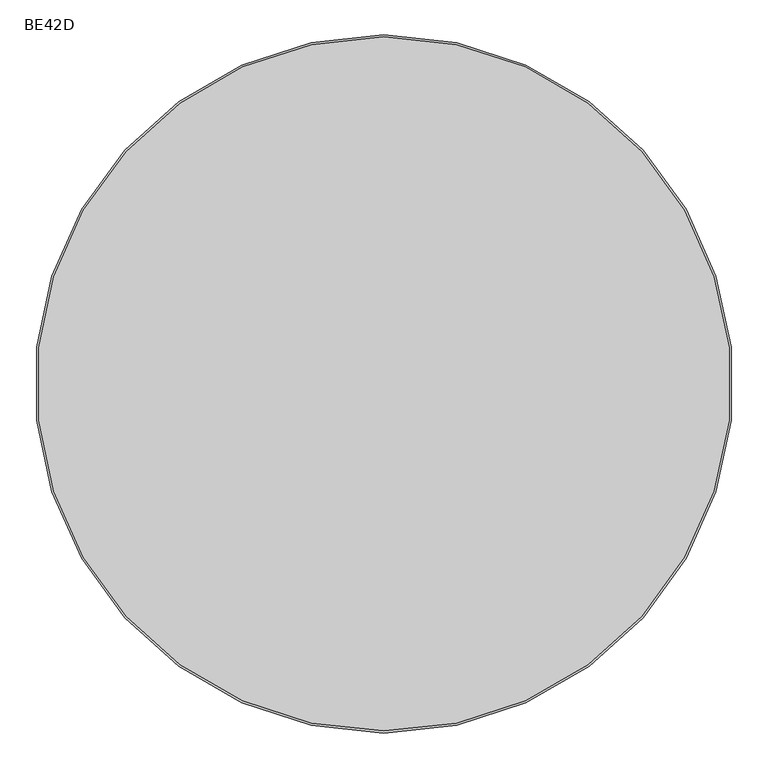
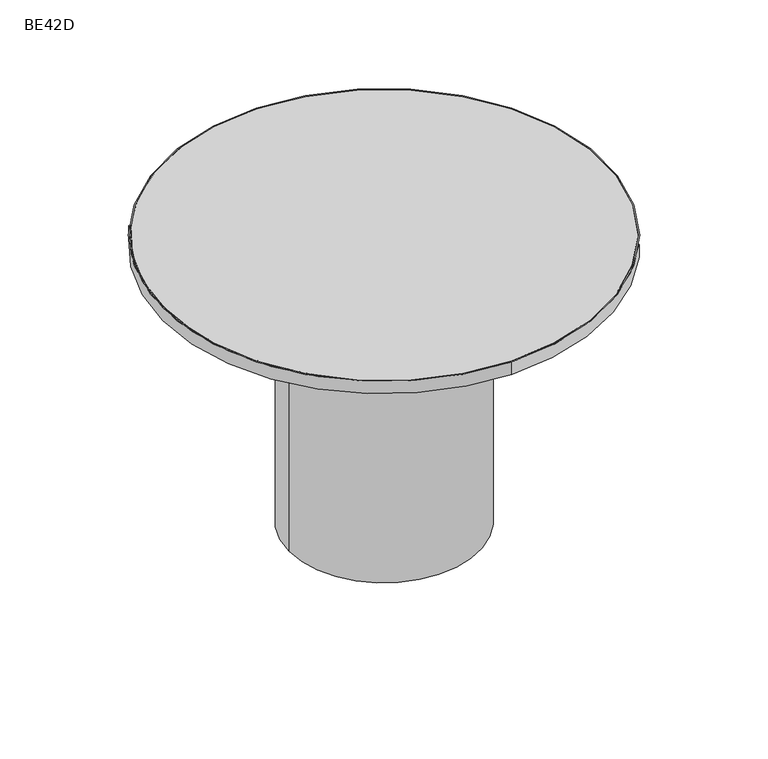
"""IFC4 building model written with IfcOpenShell, lengths in millimetres: furniture geometry, ERG-Beta-Conference_Table-Round : BE42D."""

from ifc_helpers import new_model, si_unit, point, frame, frame_2d, origin, origin_with_axes, place, context, project, spatial, circle_curve, trimmed, segment, composite_curve, outline, extrude, source, transform, mapped, element, save


def be42d_83e980be(model_context):
    return source(origin(), model_context, "Body", "SweptSolid", [
        extrude(outline(composite_curve([segment(trimmed(circle_curve(frame_2d((406.7956425, 189.8558845)), 9.525), [point((397.2706425, 189.8558845))], [point((416.3206425, 189.8558845))], False, "CARTESIAN"), True, "CONTINUOUS"), segment(trimmed(circle_curve(frame_2d((406.7956425, 189.8558845)), 9.525), [point((416.3206425, 189.8558845))], [point((397.2706425, 189.8558845))], False, "CARTESIAN"), True, "CONTINUOUS")], self_intersect=False)), origin_with_axes(), (0.0, 0.0, 1.0), 9.525),
        extrude(outline(composite_curve([segment(trimmed(circle_curve(frame_2d((679.0543575, 189.8558845)), 9.525), [point((669.5293575, 189.8558845))], [point((688.5793575, 189.8558845))], False, "CARTESIAN"), True, "CONTINUOUS"), segment(trimmed(circle_curve(frame_2d((679.0543575, 189.8558845)), 9.525), [point((688.5793575, 189.8558845))], [point((669.5293575, 189.8558845))], False, "CARTESIAN"), True, "CONTINUOUS")], self_intersect=False)), origin_with_axes(), (0.0, 0.0, 1.0), 9.525),
        extrude(outline(composite_curve([segment(trimmed(circle_curve(frame_2d((406.7956425, -82.4028306)), 9.525), [point((397.2706425, -82.4028306))], [point((416.3206425, -82.4028306))], False, "CARTESIAN"), True, "CONTINUOUS"), segment(trimmed(circle_curve(frame_2d((406.7956425, -82.4028306)), 9.525), [point((416.3206425, -82.4028306))], [point((397.2706425, -82.4028306))], False, "CARTESIAN"), True, "CONTINUOUS")], self_intersect=False)), origin_with_axes(), (0.0, 0.0, 1.0), 9.525),
        extrude(outline(composite_curve([segment(trimmed(circle_curve(frame_2d((679.0543575, -82.4028306)), 9.525), [point((669.5293575, -82.4028306))], [point((688.5793575, -82.4028306))], False, "CARTESIAN"), True, "CONTINUOUS"), segment(trimmed(circle_curve(frame_2d((679.0543575, -82.4028306)), 9.525), [point((688.5793575, -82.4028306))], [point((669.5293575, -82.4028306))], False, "CARTESIAN"), True, "CONTINUOUS")], self_intersect=False)), origin_with_axes(), (0.0, 0.0, 1.0), 9.525),
        extrude(outline(composite_curve([segment(trimmed(circle_curve(frame_2d((542.925, 53.726527)), 228.6), [point((314.325, 53.726527))], [point((771.525, 53.726527))], False, "CARTESIAN"), True, "CONTINUOUS"), segment(trimmed(circle_curve(frame_2d((542.925, 53.726527)), 228.6), [point((771.525, 53.726527))], [point((314.325, 53.726527))], False, "CARTESIAN"), True, "CONTINUOUS")], self_intersect=False)), frame((0.0, 0.0, 9.525), z_axis=(0.0, 0.0, 1.0), x_axis=(1.0, 0.0, 0.0)), (0.0, 0.0, 1.0), 695.3249758),
        extrude(outline(composite_curve([segment(trimmed(circle_curve(frame_2d((542.925, 53.726527)), 530.225), [point((542.925, -476.498473))], [point((542.925, 583.951527))], False, "CARTESIAN"), True, "CONTINUOUS"), segment(trimmed(circle_curve(frame_2d((542.925, 53.726527)), 530.225), [point((542.925, 583.951527))], [point((542.925, -476.498473))], False, "CARTESIAN"), True, "CONTINUOUS")], self_intersect=False)), frame((0.0, 0.0, 704.85), z_axis=(0.0, 0.0, 1.0), x_axis=(1.0, 0.0, 0.0)), (0.0, 0.0, 1.0), 31.75),
        extrude(outline(composite_curve([segment(trimmed(circle_curve(frame_2d((542.925, 53.726527)), 533.4), [point((542.925, -479.673473))], [point((542.925, 587.126527))], False, "CARTESIAN"), True, "CONTINUOUS"), segment(trimmed(circle_curve(frame_2d((542.925, 53.726527)), 533.4), [point((542.925, 587.126527))], [point((542.925, -479.673473))], False, "CARTESIAN"), True, "CONTINUOUS")], self_intersect=False), holes=[composite_curve([segment(trimmed(circle_curve(frame_2d((542.925, 53.726527)), 530.225), [point((542.925, 583.951527))], [point((542.925, -476.498473))], True, "CARTESIAN"), True, "CONTINUOUS"), segment(trimmed(circle_curve(frame_2d((542.925, 53.726527)), 530.225), [point((542.925, -476.498473))], [point((542.925, 583.951527))], True, "CARTESIAN"), True, "CONTINUOUS")], self_intersect=False)]), frame((0.0, 0.0, 704.85), z_axis=(0.0, 0.0, 1.0), x_axis=(1.0, 0.0, 0.0)), (0.0, 0.0, 1.0), 31.75),
    ])


if __name__ == "__main__":
    model = new_model("IFC4")
    model_context = context("Model", 3, world=origin())
    ifc_project = project(units=[si_unit("LENGTHUNIT", "METRE", prefix="MILLI")], contexts=[model_context])
    site = spatial("IfcSite", under=ifc_project)
    building = spatial("IfcBuilding", under=site)
    placement = place(None, origin())
    be42d_shape = be42d_83e980be(model_context)
    element("IfcFurniture", 1, ObjectType="ERG-Beta-Conference_Table-Round : BE42D", at=placement, inside=building, context=model_context, shape_type="MappedRepresentation", body=[
        mapped(be42d_shape, transform((0.0, 0.0, 0.0), x_axis=(1.0, 0.0, 0.0), y_axis=(0.0, 1.0, 0.0), z_axis=(0.0, 0.0, 1.0))),
    ])
    save(model, "model.ifc")
